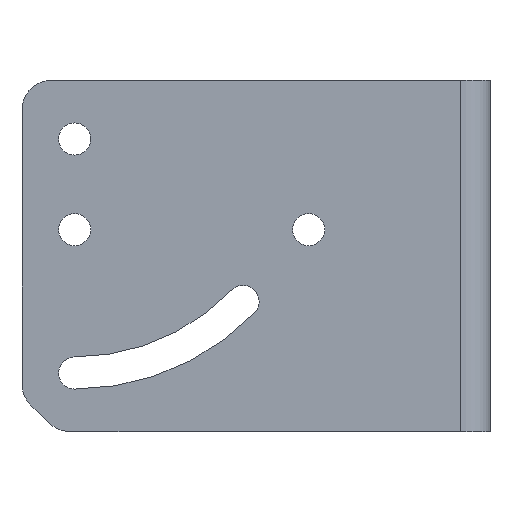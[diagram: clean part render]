
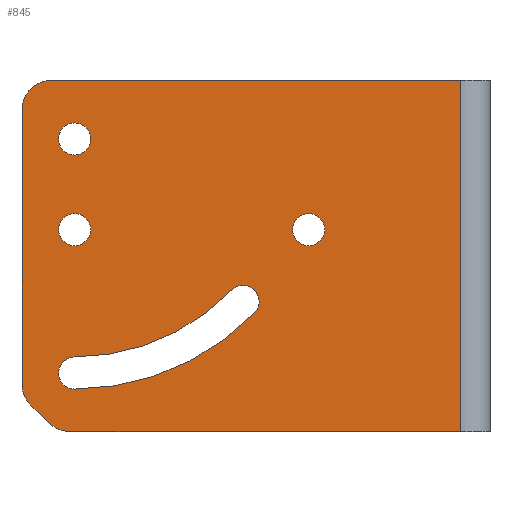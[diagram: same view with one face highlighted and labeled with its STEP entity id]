
A CAD part, left-side view. The second image highlights one B-rep face of the part: STEP entity #845.
In plain terms, the highlighted planar face has unit normal (-1, 0, 0).
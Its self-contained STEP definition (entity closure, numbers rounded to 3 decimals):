
#53=CIRCLE('',#904,2.75);
#54=CIRCLE('',#905,2.75);
#55=CIRCLE('',#906,2.75);
#56=CIRCLE('',#907,5.);
#57=CIRCLE('',#908,5.);
#58=CIRCLE('',#909,5.);
#59=CIRCLE('',#910,2.75);
#60=CIRCLE('',#911,37.251);
#61=CIRCLE('',#912,2.75);
#62=CIRCLE('',#913,42.75);
#127=ORIENTED_EDGE('',*,*,#371,.F.);
#128=ORIENTED_EDGE('',*,*,#372,.F.);
#129=ORIENTED_EDGE('',*,*,#373,.F.);
#130=ORIENTED_EDGE('',*,*,#374,.F.);
#131=ORIENTED_EDGE('',*,*,#375,.T.);
#132=ORIENTED_EDGE('',*,*,#367,.T.);
#133=ORIENTED_EDGE('',*,*,#376,.T.);
#134=ORIENTED_EDGE('',*,*,#377,.F.);
#135=ORIENTED_EDGE('',*,*,#378,.T.);
#136=ORIENTED_EDGE('',*,*,#379,.T.);
#137=ORIENTED_EDGE('',*,*,#380,.F.);
#138=ORIENTED_EDGE('',*,*,#381,.F.);
#139=ORIENTED_EDGE('',*,*,#382,.T.);
#140=ORIENTED_EDGE('',*,*,#383,.F.);
#141=ORIENTED_EDGE('',*,*,#384,.F.);
#367=EDGE_CURVE('',#489,#490,#575,.T.);
#371=EDGE_CURVE('',#493,#493,#53,.F.);
#372=EDGE_CURVE('',#494,#494,#54,.F.);
#373=EDGE_CURVE('',#495,#495,#55,.F.);
#374=EDGE_CURVE('',#496,#497,#579,.T.);
#375=EDGE_CURVE('',#496,#489,#56,.F.);
#376=EDGE_CURVE('',#490,#498,#57,.F.);
#377=EDGE_CURVE('',#499,#498,#580,.T.);
#378=EDGE_CURVE('',#499,#500,#58,.F.);
#379=EDGE_CURVE('',#500,#501,#581,.T.);
#380=EDGE_CURVE('',#497,#501,#582,.T.);
#381=EDGE_CURVE('',#502,#503,#59,.F.);
#382=EDGE_CURVE('',#502,#504,#60,.F.);
#383=EDGE_CURVE('',#505,#504,#61,.F.);
#384=EDGE_CURVE('',#503,#505,#62,.F.);
#489=VERTEX_POINT('',#1304);
#490=VERTEX_POINT('',#1305);
#493=VERTEX_POINT('',#1313);
#494=VERTEX_POINT('',#1315);
#495=VERTEX_POINT('',#1317);
#496=VERTEX_POINT('',#1319);
#497=VERTEX_POINT('',#1320);
#498=VERTEX_POINT('',#1323);
#499=VERTEX_POINT('',#1325);
#500=VERTEX_POINT('',#1327);
#501=VERTEX_POINT('',#1329);
#502=VERTEX_POINT('',#1332);
#503=VERTEX_POINT('',#1333);
#504=VERTEX_POINT('',#1335);
#505=VERTEX_POINT('',#1337);
#575=LINE('',#1303,#631);
#579=LINE('',#1318,#635);
#580=LINE('',#1324,#636);
#581=LINE('',#1328,#637);
#582=LINE('',#1330,#638);
#631=VECTOR('',#1022,1000.);
#635=VECTOR('',#1034,1000.);
#636=VECTOR('',#1039,1000.);
#637=VECTOR('',#1042,1000.);
#638=VECTOR('',#1043,1000.);
#685=EDGE_LOOP('',(#127));
#686=EDGE_LOOP('',(#128));
#687=EDGE_LOOP('',(#129));
#688=EDGE_LOOP('',(#130,#131,#132,#133,#134,#135,#136,#137));
#689=EDGE_LOOP('',(#138,#139,#140,#141));
#759=FACE_BOUND('',#685,.T.);
#760=FACE_BOUND('',#686,.T.);
#761=FACE_BOUND('',#687,.T.);
#762=FACE_BOUND('',#688,.T.);
#763=FACE_BOUND('',#689,.T.);
#833=PLANE('',#903);
#845=ADVANCED_FACE('',(#759,#760,#761,#762,#763),#833,.F.);
#903=AXIS2_PLACEMENT_3D('',#1311,#1026,#1027);
#904=AXIS2_PLACEMENT_3D('',#1312,#1028,#1029);
#905=AXIS2_PLACEMENT_3D('',#1314,#1030,#1031);
#906=AXIS2_PLACEMENT_3D('',#1316,#1032,#1033);
#907=AXIS2_PLACEMENT_3D('',#1321,#1035,#1036);
#908=AXIS2_PLACEMENT_3D('',#1322,#1037,#1038);
#909=AXIS2_PLACEMENT_3D('',#1326,#1040,#1041);
#910=AXIS2_PLACEMENT_3D('',#1331,#1044,#1045);
#911=AXIS2_PLACEMENT_3D('',#1334,#1046,#1047);
#912=AXIS2_PLACEMENT_3D('',#1336,#1048,#1049);
#913=AXIS2_PLACEMENT_3D('',#1338,#1050,#1051);
#1022=DIRECTION('',(0.,0.,-1.));
#1026=DIRECTION('',(1.,0.,0.));
#1027=DIRECTION('',(0.,0.,-1.));
#1028=DIRECTION('',(1.,0.,0.));
#1029=DIRECTION('',(0.,0.,-1.));
#1030=DIRECTION('',(1.,0.,0.));
#1031=DIRECTION('',(0.,0.,-1.));
#1032=DIRECTION('',(1.,0.,0.));
#1033=DIRECTION('',(0.,0.,-1.));
#1034=DIRECTION('',(0.,-1.,0.));
#1035=DIRECTION('',(1.,0.,0.));
#1036=DIRECTION('',(0.,0.,-1.));
#1037=DIRECTION('',(1.,0.,0.));
#1038=DIRECTION('',(0.,0.,-1.));
#1039=DIRECTION('',(0.,0.717,0.697));
#1040=DIRECTION('',(1.,0.,0.));
#1041=DIRECTION('',(0.,0.,-1.));
#1042=DIRECTION('',(0.,-1.,0.));
#1043=DIRECTION('',(0.,0.,-1.));
#1044=DIRECTION('',(1.,0.,0.));
#1045=DIRECTION('',(0.,0.,-1.));
#1046=DIRECTION('',(1.,0.,0.));
#1047=DIRECTION('',(0.,0.,-1.));
#1048=DIRECTION('',(1.,0.,0.));
#1049=DIRECTION('',(0.,0.,-1.));
#1050=DIRECTION('',(1.,0.,0.));
#1051=DIRECTION('',(0.,0.,-1.));
#1303=CARTESIAN_POINT('',(-43.1,80.,30.));
#1304=CARTESIAN_POINT('',(-43.1,80.,25.));
#1305=CARTESIAN_POINT('',(-43.1,80.,-21.904));
#1311=CARTESIAN_POINT('',(-43.1,80.,30.));
#1312=CARTESIAN_POINT('',(-43.1,71.,20.));
#1313=CARTESIAN_POINT('',(-43.1,71.,17.25));
#1314=CARTESIAN_POINT('',(-43.1,71.,4.5));
#1315=CARTESIAN_POINT('',(-43.1,71.,1.75));
#1316=CARTESIAN_POINT('',(-43.1,31.,4.5));
#1317=CARTESIAN_POINT('',(-43.1,31.,1.75));
#1318=CARTESIAN_POINT('',(-43.1,80.,30.));
#1319=CARTESIAN_POINT('',(-43.1,75.,30.));
#1320=CARTESIAN_POINT('',(-43.1,5.,30.));
#1321=CARTESIAN_POINT('',(-43.1,75.,25.));
#1322=CARTESIAN_POINT('',(-43.1,75.,-21.904));
#1323=CARTESIAN_POINT('',(-43.1,78.484,-25.49));
#1324=CARTESIAN_POINT('',(-43.1,106.997,2.209));
#1325=CARTESIAN_POINT('',(-43.1,75.297,-28.586));
#1326=CARTESIAN_POINT('',(-43.1,71.813,-25.));
#1327=CARTESIAN_POINT('',(-43.1,71.813,-30.));
#1328=CARTESIAN_POINT('',(-43.1,80.,-30.));
#1329=CARTESIAN_POINT('',(-43.1,5.,-30.));
#1330=CARTESIAN_POINT('',(-43.1,5.,30.));
#1331=CARTESIAN_POINT('',(-43.1,71.,-20.));
#1332=CARTESIAN_POINT('',(-43.1,71.072,-17.251));
#1333=CARTESIAN_POINT('',(-43.1,71.,-22.75));
#1334=CARTESIAN_POINT('',(-43.1,71.,20.));
#1335=CARTESIAN_POINT('',(-43.1,44.155,-5.826));
#1336=CARTESIAN_POINT('',(-43.1,42.226,-7.786));
#1337=CARTESIAN_POINT('',(-43.1,40.235,-9.683));
#1338=CARTESIAN_POINT('',(-43.1,71.,20.));
